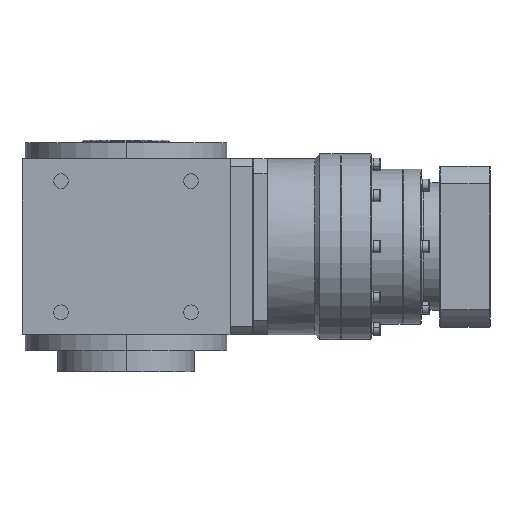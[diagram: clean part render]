
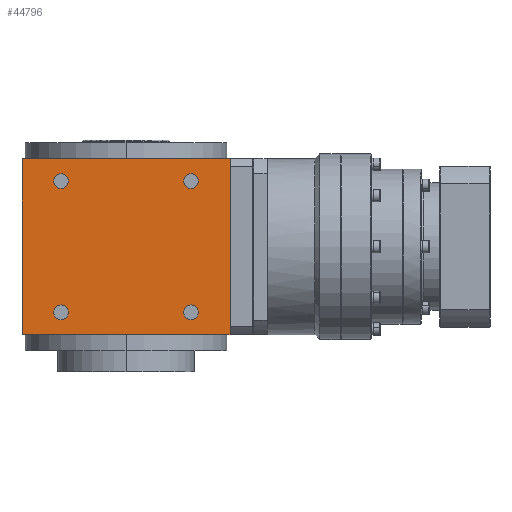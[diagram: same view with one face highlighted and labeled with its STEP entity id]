
A CAD part, left-side view. The second image highlights one B-rep face of the part: STEP entity #44796.
In plain terms, the highlighted planar face has unit normal (-1, 0, 0).
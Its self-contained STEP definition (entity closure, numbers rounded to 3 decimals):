
#364 = VERTEX_POINT ( 'NONE', #32077 ) ;
#644 = CARTESIAN_POINT ( 'NONE',  ( -84., -58.5, -53. ) ) ;
#979 = ORIENTED_EDGE ( 'NONE', *, *, #19903, .T. ) ;
#998 = CARTESIAN_POINT ( 'NONE',  ( -84., -84., 71. ) ) ;
#3011 = DIRECTION ( 'NONE',  ( 1., 0., 0. ) ) ;
#3401 = DIRECTION ( 'NONE',  ( 0., -1., 0. ) ) ;
#3854 = EDGE_CURVE ( 'NONE', #364, #24570, #37498, .T. ) ;
#4078 = EDGE_LOOP ( 'NONE', ( #14343, #979 ) ) ;
#4079 = DIRECTION ( 'NONE',  ( 1., 0., 0. ) ) ;
#4573 = DIRECTION ( 'NONE',  ( 1., 0., 0. ) ) ;
#5002 = CARTESIAN_POINT ( 'NONE',  ( -84., 52.5, -53. ) ) ;
#5158 = DIRECTION ( 'NONE',  ( 0., -1., 0. ) ) ;
#5303 = EDGE_CURVE ( 'NONE', #20968, #16411, #45444, .T. ) ;
#5318 = CIRCLE ( 'NONE', #28091, 6. ) ;
#5347 = VERTEX_POINT ( 'NONE', #644 ) ;
#5452 = DIRECTION ( 'NONE',  ( 0., -1., 0. ) ) ;
#5470 = FACE_BOUND ( 'NONE', #10530, .T. ) ;
#5787 = CARTESIAN_POINT ( 'NONE',  ( -84., 84., -71. ) ) ;
#5845 = CARTESIAN_POINT ( 'NONE',  ( -84., 52.5, 53. ) ) ;
#6303 = EDGE_CURVE ( 'NONE', #13534, #17995, #9025, .T. ) ;
#6680 = CARTESIAN_POINT ( 'NONE',  ( -84., 58.5, 53. ) ) ;
#7706 = VERTEX_POINT ( 'NONE', #12535 ) ;
#8749 = CARTESIAN_POINT ( 'NONE',  ( -84., 84., -71. ) ) ;
#8921 = AXIS2_PLACEMENT_3D ( 'NONE', #5002, #19047, #5452 ) ;
#8938 = DIRECTION ( 'NONE',  ( -1., 0., 0. ) ) ;
#9025 = LINE ( 'NONE', #5787, #14066 ) ;
#9394 = FACE_BOUND ( 'NONE', #4078, .T. ) ;
#10229 = DIRECTION ( 'NONE',  ( 1., 0., 0. ) ) ;
#10530 = EDGE_LOOP ( 'NONE', ( #44374, #39637 ) ) ;
#10560 = CIRCLE ( 'NONE', #12062, 6. ) ;
#11622 = LINE ( 'NONE', #28851, #15331 ) ;
#11728 = ORIENTED_EDGE ( 'NONE', *, *, #15412, .F. ) ;
#11767 = DIRECTION ( 'NONE',  ( 1., 0., 0. ) ) ;
#12062 = AXIS2_PLACEMENT_3D ( 'NONE', #39071, #4079, #3401 ) ;
#12108 = CIRCLE ( 'NONE', #37782, 6. ) ;
#12341 = ORIENTED_EDGE ( 'NONE', *, *, #3854, .F. ) ;
#12535 = CARTESIAN_POINT ( 'NONE',  ( -84., -58.5, 53. ) ) ;
#13107 = CARTESIAN_POINT ( 'NONE',  ( -84., 84., -71. ) ) ;
#13240 = EDGE_CURVE ( 'NONE', #7706, #20503, #43778, .T. ) ;
#13328 = FACE_OUTER_BOUND ( 'NONE', #13459, .T. ) ;
#13459 = EDGE_LOOP ( 'NONE', ( #22441, #12341, #11728, #14358 ) ) ;
#13534 = VERTEX_POINT ( 'NONE', #8749 ) ;
#14066 = VECTOR ( 'NONE', #37522, 1000. ) ;
#14343 = ORIENTED_EDGE ( 'NONE', *, *, #20860, .T. ) ;
#14358 = ORIENTED_EDGE ( 'NONE', *, *, #6303, .T. ) ;
#14386 = AXIS2_PLACEMENT_3D ( 'NONE', #23959, #3011, #27202 ) ;
#15331 = VECTOR ( 'NONE', #39195, 1000. ) ;
#15412 = EDGE_CURVE ( 'NONE', #13534, #364, #11622, .T. ) ;
#15437 = ORIENTED_EDGE ( 'NONE', *, *, #29166, .T. ) ;
#16411 = VERTEX_POINT ( 'NONE', #24327 ) ;
#16604 = CARTESIAN_POINT ( 'NONE',  ( -84., 0., 71. ) ) ;
#17995 = VERTEX_POINT ( 'NONE', #22213 ) ;
#18874 = LINE ( 'NONE', #23433, #36980 ) ;
#19047 = DIRECTION ( 'NONE',  ( 1., 0., 0. ) ) ;
#19903 = EDGE_CURVE ( 'NONE', #34278, #40110, #32586, .T. ) ;
#20046 = EDGE_CURVE ( 'NONE', #17995, #24570, #18874, .T. ) ;
#20503 = VERTEX_POINT ( 'NONE', #40406 ) ;
#20860 = EDGE_CURVE ( 'NONE', #40110, #34278, #12108, .T. ) ;
#20968 = VERTEX_POINT ( 'NONE', #44967 ) ;
#21372 = CIRCLE ( 'NONE', #8921, 6. ) ;
#22213 = CARTESIAN_POINT ( 'NONE',  ( -84., -84., -71. ) ) ;
#22313 = ORIENTED_EDGE ( 'NONE', *, *, #43516, .T. ) ;
#22441 = ORIENTED_EDGE ( 'NONE', *, *, #20046, .T. ) ;
#23433 = CARTESIAN_POINT ( 'NONE',  ( -84., -84., -71. ) ) ;
#23959 = CARTESIAN_POINT ( 'NONE',  ( -84., -52.5, 53. ) ) ;
#23998 = DIRECTION ( 'NONE',  ( 0., -1., 0. ) ) ;
#24327 = CARTESIAN_POINT ( 'NONE',  ( -84., 58.5, -53. ) ) ;
#24570 = VERTEX_POINT ( 'NONE', #998 ) ;
#24741 = ORIENTED_EDGE ( 'NONE', *, *, #13240, .T. ) ;
#25289 = EDGE_LOOP ( 'NONE', ( #24741, #33986 ) ) ;
#25765 = DIRECTION ( 'NONE',  ( 0., -1., 0. ) ) ;
#26539 = CIRCLE ( 'NONE', #38272, 6. ) ;
#27110 = DIRECTION ( 'NONE',  ( 0., 0., 1. ) ) ;
#27202 = DIRECTION ( 'NONE',  ( 0., -1., 0. ) ) ;
#28091 = AXIS2_PLACEMENT_3D ( 'NONE', #43267, #11767, #25765 ) ;
#28851 = CARTESIAN_POINT ( 'NONE',  ( -84., 84., -71. ) ) ;
#29166 = EDGE_CURVE ( 'NONE', #45261, #5347, #5318, .T. ) ;
#29904 = DIRECTION ( 'NONE',  ( 0., 0., 1. ) ) ;
#30420 = EDGE_CURVE ( 'NONE', #20503, #7706, #10560, .T. ) ;
#30632 = DIRECTION ( 'NONE',  ( 0., -1., 0. ) ) ;
#31012 = FACE_BOUND ( 'NONE', #34772, .T. ) ;
#32077 = CARTESIAN_POINT ( 'NONE',  ( -84., 84., 71. ) ) ;
#32484 = AXIS2_PLACEMENT_3D ( 'NONE', #13107, #8938, #27110 ) ;
#32586 = CIRCLE ( 'NONE', #41404, 6. ) ;
#33768 = PLANE ( 'NONE',  #32484 ) ;
#33986 = ORIENTED_EDGE ( 'NONE', *, *, #30420, .T. ) ;
#34278 = VERTEX_POINT ( 'NONE', #6680 ) ;
#34492 = DIRECTION ( 'NONE',  ( 1., 0., 0. ) ) ;
#34772 = EDGE_LOOP ( 'NONE', ( #22313, #15437 ) ) ;
#34939 = DIRECTION ( 'NONE',  ( 0., -1., 0. ) ) ;
#35036 = VECTOR ( 'NONE', #30632, 1000. ) ;
#36090 = CARTESIAN_POINT ( 'NONE',  ( -84., 52.5, -53. ) ) ;
#36538 = DIRECTION ( 'NONE',  ( 0., -1., 0. ) ) ;
#36980 = VECTOR ( 'NONE', #29904, 1000. ) ;
#37203 = FACE_BOUND ( 'NONE', #25289, .T. ) ;
#37251 = CARTESIAN_POINT ( 'NONE',  ( -84., 46.5, 53. ) ) ;
#37364 = AXIS2_PLACEMENT_3D ( 'NONE', #36090, #4573, #36538 ) ;
#37498 = LINE ( 'NONE', #16604, #35036 ) ;
#37522 = DIRECTION ( 'NONE',  ( 0., -1., 0. ) ) ;
#37782 = AXIS2_PLACEMENT_3D ( 'NONE', #40351, #39902, #5158 ) ;
#38272 = AXIS2_PLACEMENT_3D ( 'NONE', #41175, #34492, #34939 ) ;
#39071 = CARTESIAN_POINT ( 'NONE',  ( -84., -52.5, 53. ) ) ;
#39195 = DIRECTION ( 'NONE',  ( 0., 0., 1. ) ) ;
#39637 = ORIENTED_EDGE ( 'NONE', *, *, #43800, .T. ) ;
#39902 = DIRECTION ( 'NONE',  ( 1., 0., 0. ) ) ;
#40110 = VERTEX_POINT ( 'NONE', #37251 ) ;
#40351 = CARTESIAN_POINT ( 'NONE',  ( -84., 52.5, 53. ) ) ;
#40406 = CARTESIAN_POINT ( 'NONE',  ( -84., -46.5, 53. ) ) ;
#41175 = CARTESIAN_POINT ( 'NONE',  ( -84., -52.5, -53. ) ) ;
#41404 = AXIS2_PLACEMENT_3D ( 'NONE', #5845, #10229, #23998 ) ;
#43267 = CARTESIAN_POINT ( 'NONE',  ( -84., -52.5, -53. ) ) ;
#43516 = EDGE_CURVE ( 'NONE', #5347, #45261, #26539, .T. ) ;
#43778 = CIRCLE ( 'NONE', #14386, 6. ) ;
#43800 = EDGE_CURVE ( 'NONE', #16411, #20968, #21372, .T. ) ;
#43847 = CARTESIAN_POINT ( 'NONE',  ( -84., -46.5, -53. ) ) ;
#44374 = ORIENTED_EDGE ( 'NONE', *, *, #5303, .T. ) ;
#44796 = ADVANCED_FACE ( 'NONE', ( #37203, #5470, #31012, #9394, #13328 ), #33768, .T. ) ;
#44967 = CARTESIAN_POINT ( 'NONE',  ( -84., 46.5, -53. ) ) ;
#45261 = VERTEX_POINT ( 'NONE', #43847 ) ;
#45444 = CIRCLE ( 'NONE', #37364, 6. ) ;
